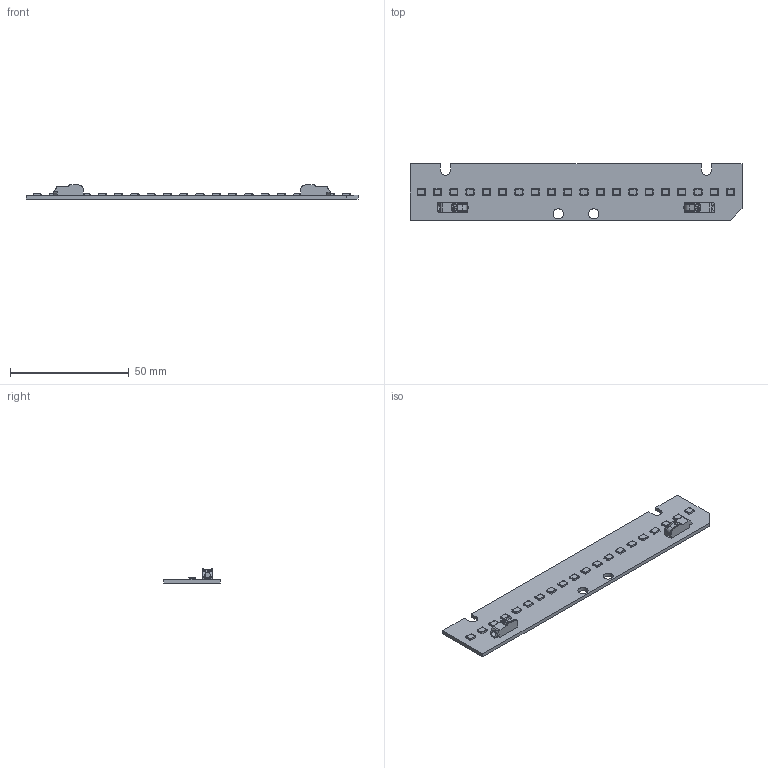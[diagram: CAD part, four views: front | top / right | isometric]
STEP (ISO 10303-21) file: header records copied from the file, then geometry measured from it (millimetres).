
FILE_DESCRIPTION (( 'STEP AP203' ), '1' );
FILE_NAME ('led_module LX142.STEP', '2017-10-20T10:24:19', ( '' ), ( '' ), 'SwSTEP 2.0', 'SolidWorks 2014', '' );
FILE_SCHEMA (( 'CONFIG_CONTROL_DESIGN' ));
Length unit declared in the file: millimetre
Products named in the file (1): led_module LX142
Bounding box: 140 x 24 x 5.95 mm (x, y, z)
Volume: 5653.6 mm3; surface area: 8340.4 mm2
Topology: 23 solids, 23 shells, 1317 faces, 3851 edges, 2606 vertices
Faces by surface type: plane 891, cylinder 424, bspline 2
Entity records: 46486 total; most frequent: CARTESIAN_POINT 14223, ORIENTED_EDGE 7702, DIRECTION 5123, EDGE_CURVE 3851, VERTEX_POINT 2606, VECTOR 2255, LINE 2255, B_SPLINE_CURVE_WITH_KNOTS 1468
